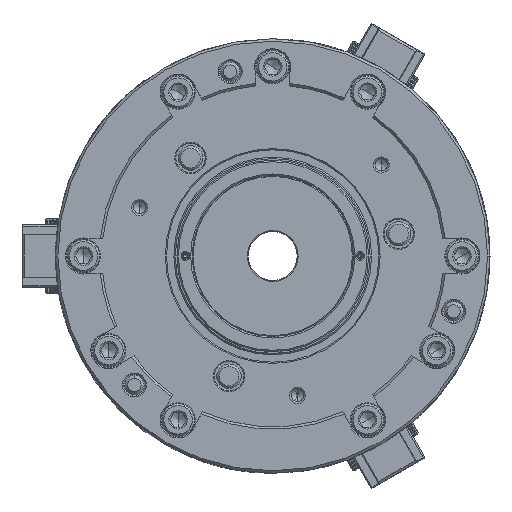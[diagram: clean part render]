
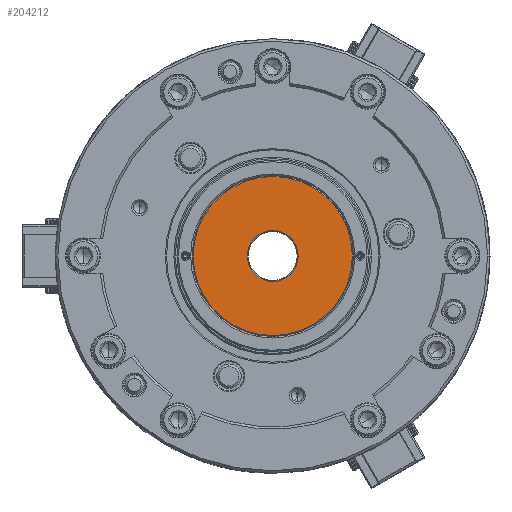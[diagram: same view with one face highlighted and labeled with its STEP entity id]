
A CAD part, left-side view. The second image highlights one B-rep face of the part: STEP entity #204212.
In plain terms, the highlighted planar face has unit normal (-1, 0, 0).
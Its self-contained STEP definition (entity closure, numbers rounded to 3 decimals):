
#13608 = CIRCLE ( 'NONE', #109687, 32.6 ) ;
#13866 = DIRECTION ( 'NONE',  ( -1., 0., 0. ) ) ;
#27205 = CIRCLE ( 'NONE', #167939, 10.4 ) ;
#31723 = CARTESIAN_POINT ( 'NONE',  ( -28.5, 0., 32.6 ) ) ;
#35019 = ORIENTED_EDGE ( 'NONE', *, *, #87175, .F. ) ;
#38747 = AXIS2_PLACEMENT_3D ( 'NONE', #196623, #64420, #45177 ) ;
#41910 = DIRECTION ( 'NONE',  ( 0., 0., 1. ) ) ;
#43912 = AXIS2_PLACEMENT_3D ( 'NONE', #61179, #13866, #41910 ) ;
#45177 = DIRECTION ( 'NONE',  ( 0., 0., 1. ) ) ;
#47012 = CARTESIAN_POINT ( 'NONE',  ( -28.5, 0., 0. ) ) ;
#57229 = ORIENTED_EDGE ( 'NONE', *, *, #142945, .F. ) ;
#58728 = CARTESIAN_POINT ( 'NONE',  ( -28.5, 0., 0. ) ) ;
#59767 = DIRECTION ( 'NONE',  ( 0., 0., 1. ) ) ;
#61179 = CARTESIAN_POINT ( 'NONE',  ( -28.5, 0., 0. ) ) ;
#64420 = DIRECTION ( 'NONE',  ( -1., 0., 0. ) ) ;
#72646 = FACE_OUTER_BOUND ( 'NONE', #196523, .T. ) ;
#74673 = CIRCLE ( 'NONE', #43912, 10.4 ) ;
#74770 = DIRECTION ( 'NONE',  ( -1., 0., 0. ) ) ;
#87175 = EDGE_CURVE ( 'NONE', #171250, #106953, #74673, .T. ) ;
#88525 = CARTESIAN_POINT ( 'NONE',  ( -28.5, 0., -10.4 ) ) ;
#89848 = FACE_BOUND ( 'NONE', #113355, .T. ) ;
#91495 = EDGE_CURVE ( 'NONE', #155871, #204422, #13608, .T. ) ;
#104944 = CARTESIAN_POINT ( 'NONE',  ( -28.5, -32.6, 0. ) ) ;
#106017 = PLANE ( 'NONE',  #131064 ) ;
#106953 = VERTEX_POINT ( 'NONE', #186221 ) ;
#109687 = AXIS2_PLACEMENT_3D ( 'NONE', #47012, #182338, #178098 ) ;
#113355 = EDGE_LOOP ( 'NONE', ( #57229, #35019 ) ) ;
#114818 = ORIENTED_EDGE ( 'NONE', *, *, #181371, .T. ) ;
#122157 = DIRECTION ( 'NONE',  ( 0., 0., 1. ) ) ;
#131064 = AXIS2_PLACEMENT_3D ( 'NONE', #104944, #74770, #122157 ) ;
#142945 = EDGE_CURVE ( 'NONE', #106953, #171250, #27205, .T. ) ;
#155514 = CIRCLE ( 'NONE', #38747, 32.6 ) ;
#155871 = VERTEX_POINT ( 'NONE', #175202 ) ;
#167480 = ORIENTED_EDGE ( 'NONE', *, *, #91495, .T. ) ;
#167939 = AXIS2_PLACEMENT_3D ( 'NONE', #58728, #207040, #59767 ) ;
#171250 = VERTEX_POINT ( 'NONE', #88525 ) ;
#175202 = CARTESIAN_POINT ( 'NONE',  ( -28.5, 0., -32.6 ) ) ;
#178098 = DIRECTION ( 'NONE',  ( 0., 0., 1. ) ) ;
#181371 = EDGE_CURVE ( 'NONE', #204422, #155871, #155514, .T. ) ;
#182338 = DIRECTION ( 'NONE',  ( -1., 0., 0. ) ) ;
#186221 = CARTESIAN_POINT ( 'NONE',  ( -28.5, 0., 10.4 ) ) ;
#196523 = EDGE_LOOP ( 'NONE', ( #167480, #114818 ) ) ;
#196623 = CARTESIAN_POINT ( 'NONE',  ( -28.5, 0., 0. ) ) ;
#204212 = ADVANCED_FACE ( 'NONE', ( #72646, #89848 ), #106017, .T. ) ;
#204422 = VERTEX_POINT ( 'NONE', #31723 ) ;
#207040 = DIRECTION ( 'NONE',  ( -1., 0., 0. ) ) ;
